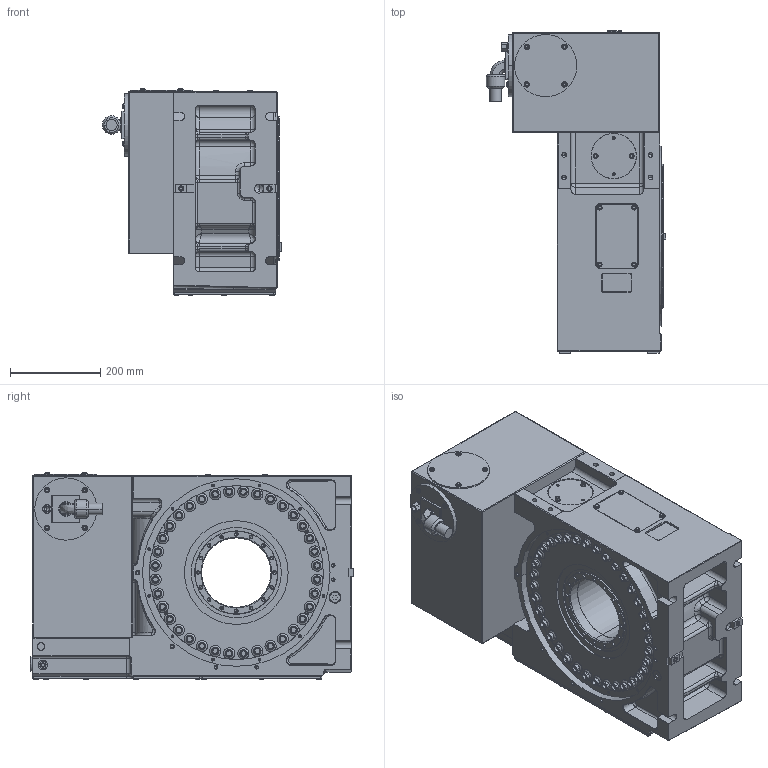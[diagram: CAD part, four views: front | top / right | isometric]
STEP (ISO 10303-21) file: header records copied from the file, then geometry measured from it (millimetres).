
FILE_DESCRIPTION (( 'STEP AP214' ), '1' );
FILE_NAME ('TUS400_カタログ用_M信号.STEP', '2021-10-15T04:57:37', ( '' ), ( '' ), 'SwSTEP 2.0', 'SolidWorks 2020', '' );
FILE_SCHEMA (( 'AUTOMOTIVE_DESIGN' ));
Length unit declared in the file: millimetre
Products named in the file (1): TUS400_カタログ用_M信号
Bounding box: 397.4 x 716.5 x 460.6 mm (x, y, z)
Volume: 68197514.3 mm3; surface area: 2044637.1 mm2
Topology: 11 solids, 16 shells, 3961 faces, 9888 edges, 6214 vertices
Faces by surface type: plane 2360, cylinder 920, cone 496, torus 125, bspline 44, sphere 16
Entity records: 162891 total; most frequent: CARTESIAN_POINT 24051, DIRECTION 19855, ORIENTED_EDGE 19450, EDGE_CURVE 9725, LINE 7133, VECTOR 7133, AXIS2_PLACEMENT_3D 6361, VERTEX_POINT 6212
